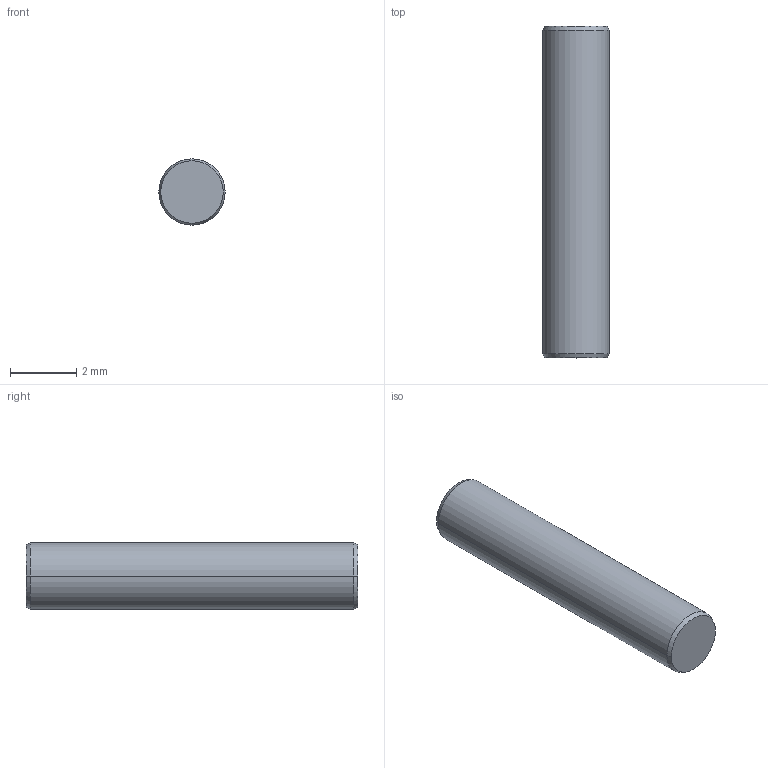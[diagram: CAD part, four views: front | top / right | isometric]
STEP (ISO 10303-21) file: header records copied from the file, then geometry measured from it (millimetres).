
FILE_DESCRIPTION((''),'2;1');
FILE_NAME('2MM00','2024-04-22T20:20:52',('qinghui.yi'),(''),'CREO PARAMETRIC BY PTC INC, 2019164','CREO PARAMETRIC BY PTC INC, 2019164','');
FILE_SCHEMA(('CONFIG_CONTROL_DESIGN','SHAPE_APPEARANCE_LAYERS_GROUPS'));
Length unit declared in the file: millimetre
Products named in the file (1): 2MM00
Bounding box: 2 x 10 x 2 mm (x, y, z)
Volume: 31.4 mm3; surface area: 68.5 mm2
Topology: 1 solids, 1 shells, 8 faces, 17 edges, 14 vertices
Faces by surface type: cone 4, plane 2, cylinder 2
Entity records: 593 total; most frequent: COLOUR_RGB 312, DIRECTION 43, CARTESIAN_POINT 34, ORIENTED_EDGE 28, AXIS2_PLACEMENT_3D 17, EDGE_CURVE 14, VECTOR 9, LINE 9
